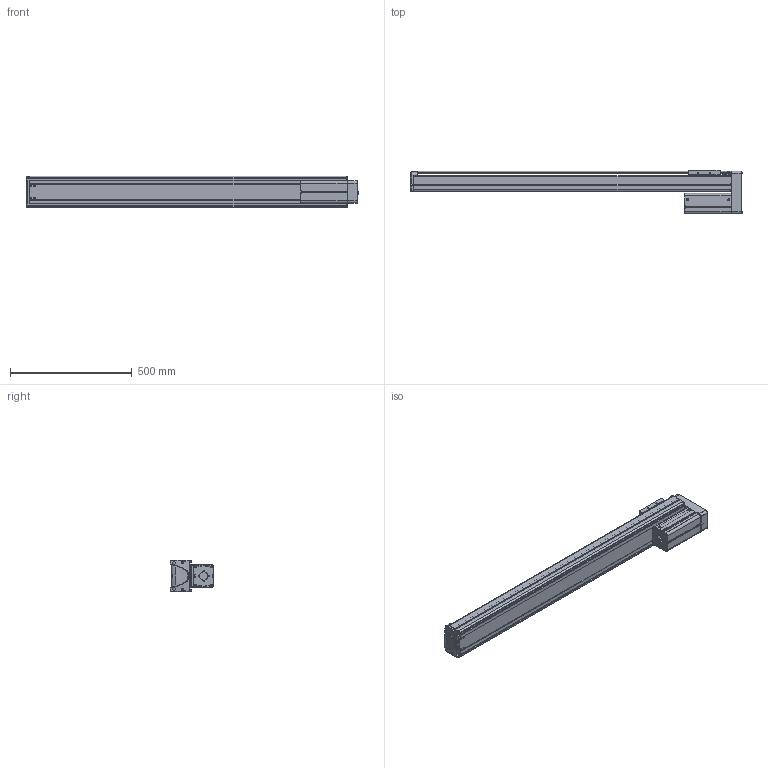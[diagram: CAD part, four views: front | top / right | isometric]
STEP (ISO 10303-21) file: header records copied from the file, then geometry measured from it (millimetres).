
FILE_DESCRIPTION((''),'2;1');
FILE_NAME('BE30E-UU-M_B-B0_IGS_PRT','2017-06-17T',(' '),(''),'PRO/ENGINEER BY PARAMETRIC TECHNOLOGY CORPORATION, 2015030','PRO/ENGINEER BY PARAMETRIC TECHNOLOGY CORPORATION, 2015030','');
FILE_SCHEMA(('CONFIG_CONTROL_DESIGN'));
Length unit declared in the file: millimetre
Products named in the file (1): BE30E-UU-M_B-B0_IGS_PRT
Bounding box: 1361.9 x 180 x 130 mm (x, y, z)
Volume: 4433012.8 mm3; surface area: 1879369.8 mm2
Topology: 2 solids, 132 shells, 2086 faces, 5647 edges, 3670 vertices
Faces by surface type: plane 1001, cylinder 891, cone 105, torus 37, bspline 28, sphere 24
Entity records: 67814 total; most frequent: CARTESIAN_POINT 14413, DIRECTION 11280, ORIENTED_EDGE 10715, EDGE_CURVE 5609, AXIS2_PLACEMENT_3D 3991, VERTEX_POINT 3670, VECTOR 3298, LINE 3298
